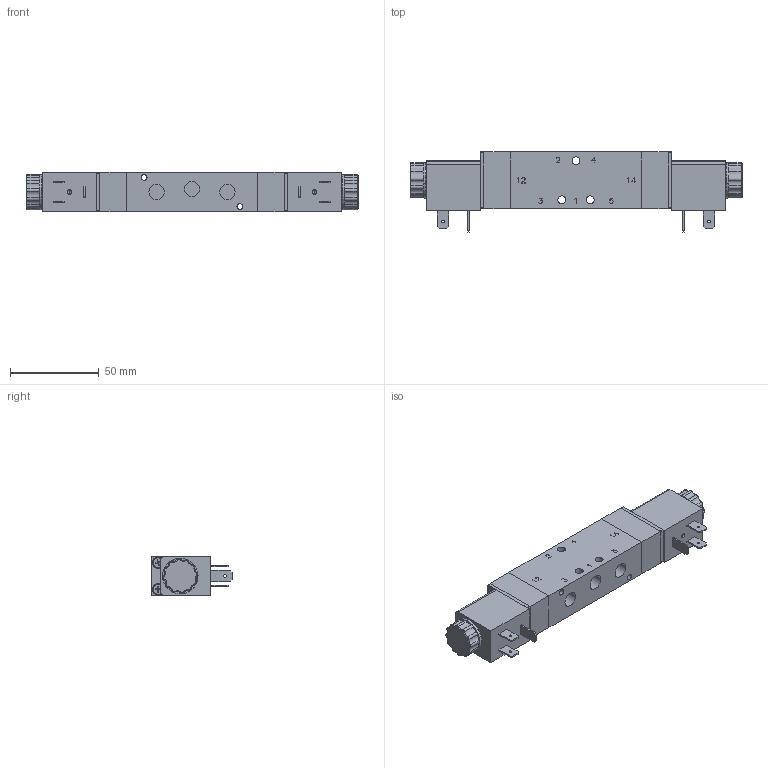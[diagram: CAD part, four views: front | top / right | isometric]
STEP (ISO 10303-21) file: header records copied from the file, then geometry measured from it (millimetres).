
FILE_DESCRIPTION (( 'STEP AP214' ), '1' );
FILE_NAME ('ICK-09-530-HN-F42_Airtec.step', '2019-01-08T09:01:25', ( '' ), ( '' ), 'SwSTEP 2.0', 'SolidWorks 2010', '' );
FILE_SCHEMA (( 'AUTOMOTIVE_DESIGN' ));
Length unit declared in the file: millimetre
Products named in the file (3): Volumenkörper3; Volumenkörper1; ICK-09-530-HN-F42_Airtec
Assembly tree (3 placements, depth 2):
  ICK-09-530-HN-F42_Airtec
    Volumenkörper1  x2
    Volumenkörper3
Bounding box: 187.2 x 45.2 x 22 mm (x, y, z)
Volume: 113726.8 mm3; surface area: 32667.2 mm2
Topology: 3 solids, 3 shells, 1096 faces, 2886 edges, 1863 vertices
Faces by surface type: plane 605, cylinder 210, cone 134, torus 115, bspline 32
Entity records: 42589 total; most frequent: CARTESIAN_POINT 9446, ORIENTED_EDGE 5532, DIRECTION 5398, EDGE_CURVE 2766, AXIS2_PLACEMENT_3D 1840, VERTEX_POINT 1786, LINE 1718, VECTOR 1718
